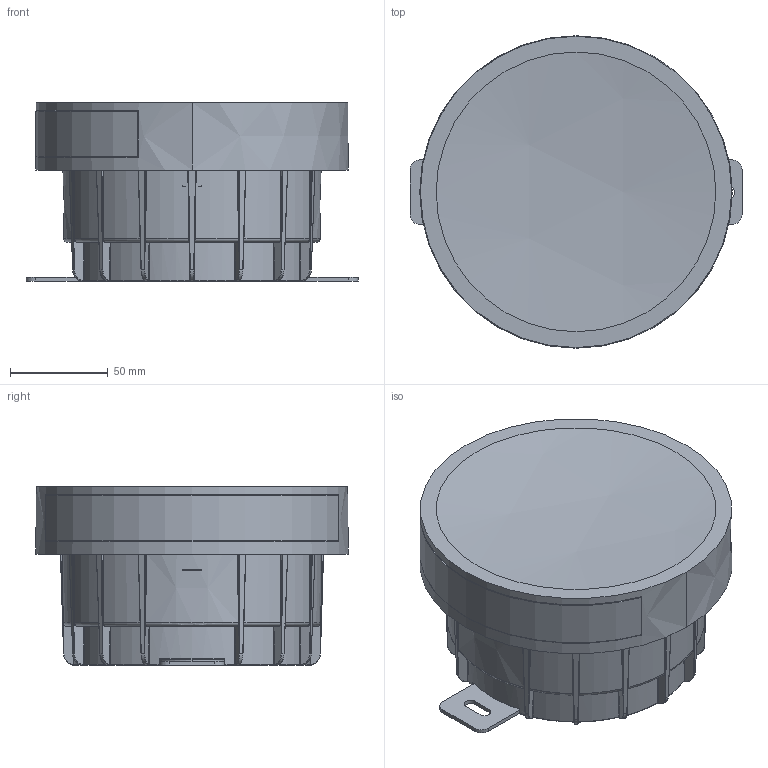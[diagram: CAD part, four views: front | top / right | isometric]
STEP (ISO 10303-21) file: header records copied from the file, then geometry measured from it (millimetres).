
FILE_DESCRIPTION((''),'2;1');
FILE_NAME('D1HU1234_ASM_3_ASM','2024-11-23T',('Administrator'),(''),'CREO PARAMETRIC BY PTC INC, 2015200','CREO PARAMETRIC BY PTC INC, 2015200','');
FILE_SCHEMA(('CONFIG_CONTROL_DESIGN'));
Length unit declared in the file: millimetre
Products named in the file (16): 160-DT_15_1_1; 160-13__1_1; 7CW16_F_ANY-10233_7_1_1; 7CW16_FL_ANY_7_1_1; 7CW1316_P_ANY_1_1; SCREW-M12_1_18_1_1; XINGUIJIAO_14_1_1; GUIJIAOSAI-005_8_1_1; LUOMUZUJIAN_ASM_14_ASM_1_ASM_1_ASM; M14__ASM_1_ASM_1_ASM; 7CW16_KAHUANG_ANY_7_1_1; 7CW-160-1GYBJZ_1_1; GYBAN_11_1_1; 7LY-160QUDONG_1_1; 7HU__1_1; D1HU1234_ASM_3_ASM
Assembly tree (18 placements, depth 4):
  D1HU1234_ASM_3_ASM
    160-DT_15_1_1
    160-13__1_1
    7CW16_F_ANY-10233_7_1_1
    7CW16_FL_ANY_7_1_1
    7CW1316_P_ANY_1_1
    M14__ASM_1_ASM_1_ASM
      LUOMUZUJIAN_ASM_14_ASM_1_ASM_1_ASM
        SCREW-M12_1_18_1_1
        XINGUIJIAO_14_1_1
        GUIJIAOSAI-005_8_1_1
    7CW16_KAHUANG_ANY_7_1_1  x4
    7CW-160-1GYBJZ_1_1
    GYBAN_11_1_1
    7LY-160QUDONG_1_1
    7HU__1_1
Bounding box: 170 x 160 x 91.5 mm (x, y, z)
Volume: 431521.6 mm3; surface area: 292933.5 mm2
Topology: 16 solids, 17 shells, 2224 faces, 5682 edges, 3495 vertices
Faces by surface type: cylinder 746, plane 672, bspline 273, torus 269, cone 148, sphere 112, extrusion 4
Entity records: 92291 total; most frequent: CARTESIAN_POINT 43085, ORIENTED_EDGE 10484, DIRECTION 10022, EDGE_CURVE 5242, AXIS2_PLACEMENT_3D 3985, VERTEX_POINT 3264, EDGE_LOOP 2288, FACE_OUTER_BOUND 2113
